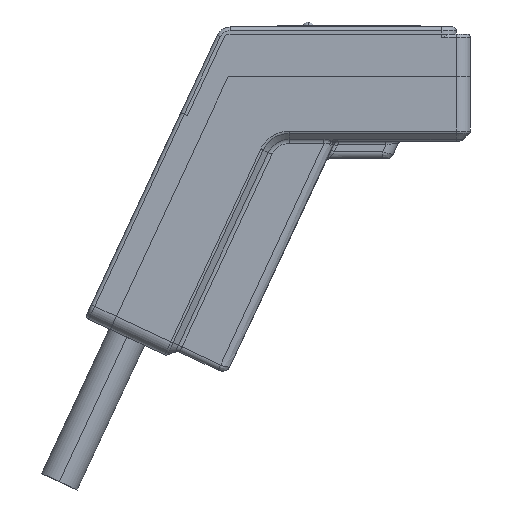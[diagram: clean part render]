
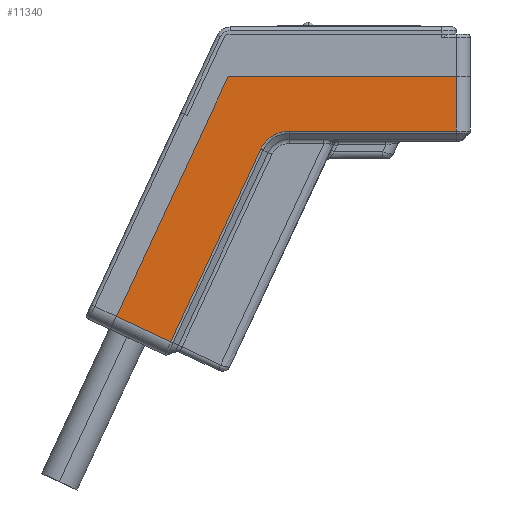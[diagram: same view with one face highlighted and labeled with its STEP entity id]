
A CAD part, left-side view. The second image highlights one B-rep face of the part: STEP entity #11340.
In plain terms, the highlighted planar face has unit normal (-1, 0, 0).
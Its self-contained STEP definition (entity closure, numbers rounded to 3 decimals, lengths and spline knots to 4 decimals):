
#931 = ORIENTED_EDGE ( 'NONE', *, *, #31729, .T. ) ;
#1363 = VERTEX_POINT ( 'NONE', #45958 ) ;
#1542 = VERTEX_POINT ( 'NONE', #41958 ) ;
#2436 = ORIENTED_EDGE ( 'NONE', *, *, #28585, .T. ) ;
#4914 = CARTESIAN_POINT ( 'NONE',  ( -2.3228, 0.249, -0.5249 ) ) ;
#6293 = LINE ( 'NONE', #9500, #20474 ) ;
#6919 = CARTESIAN_POINT ( 'NONE',  ( -2.3228, 0.8523, -1.5391 ) ) ;
#7559 = DIRECTION ( 'NONE',  ( 1., 0., 0. ) ) ;
#7790 = DIRECTION ( 'NONE',  ( 0., 0., -1. ) ) ;
#8716 = VECTOR ( 'NONE', #55895, 39.3701 ) ;
#9500 = CARTESIAN_POINT ( 'NONE',  ( -2.3228, -0.6735, -0.3514 ) ) ;
#10286 = VERTEX_POINT ( 'NONE', #61967 ) ;
#10667 = AXIS2_PLACEMENT_3D ( 'NONE', #4914, #30622, #41171 ) ;
#11340 = ADVANCED_FACE ( 'NONE', ( #12246 ), #12871, .F. ) ;
#12098 = DIRECTION ( 'NONE',  ( 0., 1., 0. ) ) ;
#12210 = EDGE_CURVE ( 'NONE', #18565, #20396, #49850, .T. ) ;
#12246 = FACE_OUTER_BOUND ( 'NONE', #50934, .T. ) ;
#12807 = CARTESIAN_POINT ( 'NONE',  ( -2.3228, 1.2031, -1.3755 ) ) ;
#12871 = PLANE ( 'NONE',  #44107 ) ;
#15686 = ORIENTED_EDGE ( 'NONE', *, *, #12210, .T. ) ;
#17043 = DIRECTION ( 'NONE',  ( 0., -0.906, -0.423 ) ) ;
#18565 = VERTEX_POINT ( 'NONE', #23379 ) ;
#19839 = CARTESIAN_POINT ( 'NONE',  ( -2.3228, 0.5863, -0.0528 ) ) ;
#19907 = ORIENTED_EDGE ( 'NONE', *, *, #28301, .T. ) ;
#20396 = VERTEX_POINT ( 'NONE', #12807 ) ;
#20474 = VECTOR ( 'NONE', #34343, 39.3701 ) ;
#22927 = EDGE_CURVE ( 'NONE', #20396, #1363, #31413, .T. ) ;
#23379 = CARTESIAN_POINT ( 'NONE',  ( -2.3228, 0.5863, -0.0528 ) ) ;
#25282 = EDGE_CURVE ( 'NONE', #54433, #10286, #53412, .T. ) ;
#27258 = ORIENTED_EDGE ( 'NONE', *, *, #63920, .T. ) ;
#28301 = EDGE_CURVE ( 'NONE', #10286, #51819, #6293, .T. ) ;
#28585 = EDGE_CURVE ( 'NONE', #1542, #18565, #40935, .T. ) ;
#30622 = DIRECTION ( 'NONE',  ( 1., 0., 0. ) ) ;
#31413 = LINE ( 'NONE', #6919, #36931 ) ;
#31729 = EDGE_CURVE ( 'NONE', #51819, #1542, #56968, .T. ) ;
#31862 = CARTESIAN_POINT ( 'NONE',  ( -2.3228, -0.6735, -0.3514 ) ) ;
#32310 = CARTESIAN_POINT ( 'NONE',  ( -2.3228, 0.5863, -0.0528 ) ) ;
#34343 = DIRECTION ( 'NONE',  ( 0., -1., 0. ) ) ;
#36931 = VECTOR ( 'NONE', #17043, 39.3701 ) ;
#38147 = CARTESIAN_POINT ( 'NONE',  ( -2.3228, -0.0043, 0.046 ) ) ;
#39671 = DIRECTION ( 'NONE',  ( 0., 0.423, -0.906 ) ) ;
#40935 = LINE ( 'NONE', #32310, #51186 ) ;
#41171 = DIRECTION ( 'NONE',  ( 0., 0., -1. ) ) ;
#41958 = CARTESIAN_POINT ( 'NONE',  ( -2.3228, -0.6735, -0.0528 ) ) ;
#44107 = AXIS2_PLACEMENT_3D ( 'NONE', #38147, #7559, #7790 ) ;
#44473 = CARTESIAN_POINT ( 'NONE',  ( -2.3228, -0.6735, 0.1838 ) ) ;
#45958 = CARTESIAN_POINT ( 'NONE',  ( -2.3228, 0.9025, -1.5157 ) ) ;
#46213 = CARTESIAN_POINT ( 'NONE',  ( -2.3228, 0.4063, -0.4515 ) ) ;
#48030 = LINE ( 'NONE', #46213, #8716 ) ;
#48617 = ORIENTED_EDGE ( 'NONE', *, *, #25282, .T. ) ;
#49850 = LINE ( 'NONE', #19839, #53029 ) ;
#50184 = DIRECTION ( 'NONE',  ( 0., 0., 1. ) ) ;
#50934 = EDGE_LOOP ( 'NONE', ( #48617, #19907, #931, #2436, #15686, #62547, #27258 ) ) ;
#51186 = VECTOR ( 'NONE', #12098, 39.3701 ) ;
#51819 = VERTEX_POINT ( 'NONE', #31862 ) ;
#53029 = VECTOR ( 'NONE', #39671, 39.3701 ) ;
#53412 = CIRCLE ( 'NONE', #10667, 0.1735 ) ;
#54433 = VERTEX_POINT ( 'NONE', #57414 ) ;
#55895 = DIRECTION ( 'NONE',  ( 0., -0.423, 0.906 ) ) ;
#56147 = VECTOR ( 'NONE', #50184, 39.3701 ) ;
#56968 = LINE ( 'NONE', #44473, #56147 ) ;
#57414 = CARTESIAN_POINT ( 'NONE',  ( -2.3228, 0.4063, -0.4515 ) ) ;
#61967 = CARTESIAN_POINT ( 'NONE',  ( -2.3228, 0.249, -0.3514 ) ) ;
#62547 = ORIENTED_EDGE ( 'NONE', *, *, #22927, .T. ) ;
#63920 = EDGE_CURVE ( 'NONE', #1363, #54433, #48030, .T. ) ;
